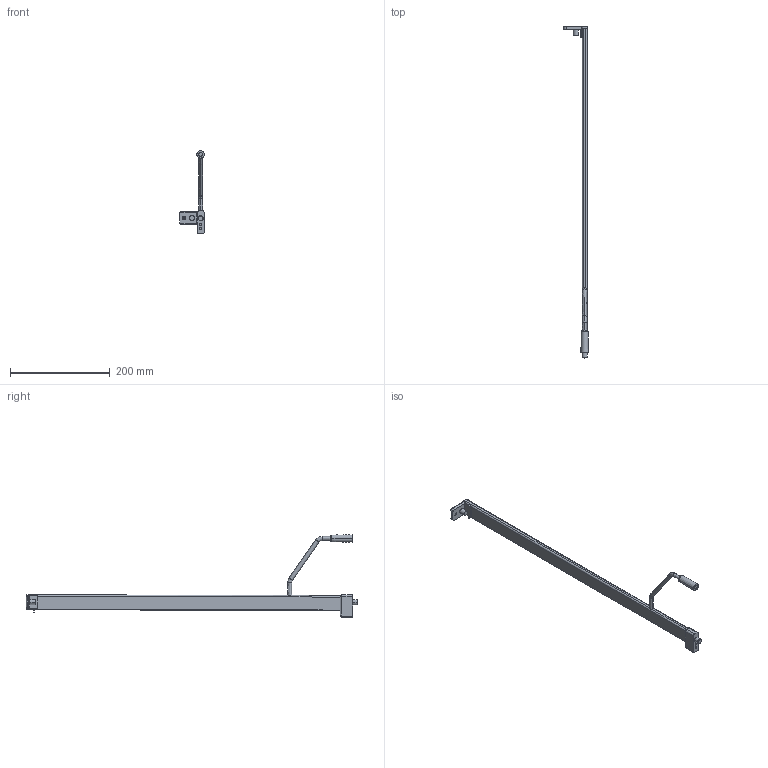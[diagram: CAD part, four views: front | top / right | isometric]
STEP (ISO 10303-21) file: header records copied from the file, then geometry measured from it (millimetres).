
FILE_DESCRIPTION (( 'STEP AP214' ), '1' );
FILE_NAME ('_2S_REL_7606_NL650_RE_Frontstütze.step', '2010-07-01T14:41:59', ( 'grass' ), ( '' ), 'SwSTEP 2.0', 'SolidWorks 2009', '' );
FILE_SCHEMA (( 'AUTOMOTIVE_DESIGN' ));
Length unit declared in the file: millimetre
Products named in the file (1): _2S_REL_7606_NL650_RE_Frontstütze
Bounding box: 49.75 x 665.5 x 165.5 mm (x, y, z)
Volume: 231059.6 mm3; surface area: 63036.3 mm2
Topology: 2 solids, 2 shells, 143 faces, 344 edges, 209 vertices
Faces by surface type: cylinder 61, plane 46, bspline 16, torus 12, cone 6, sphere 2
Entity records: 5445 total; most frequent: CARTESIAN_POINT 2220, ORIENTED_EDGE 684, DIRECTION 658, EDGE_CURVE 342, AXIS2_PLACEMENT_3D 252, VERTEX_POINT 209, LINE 154, VECTOR 154
